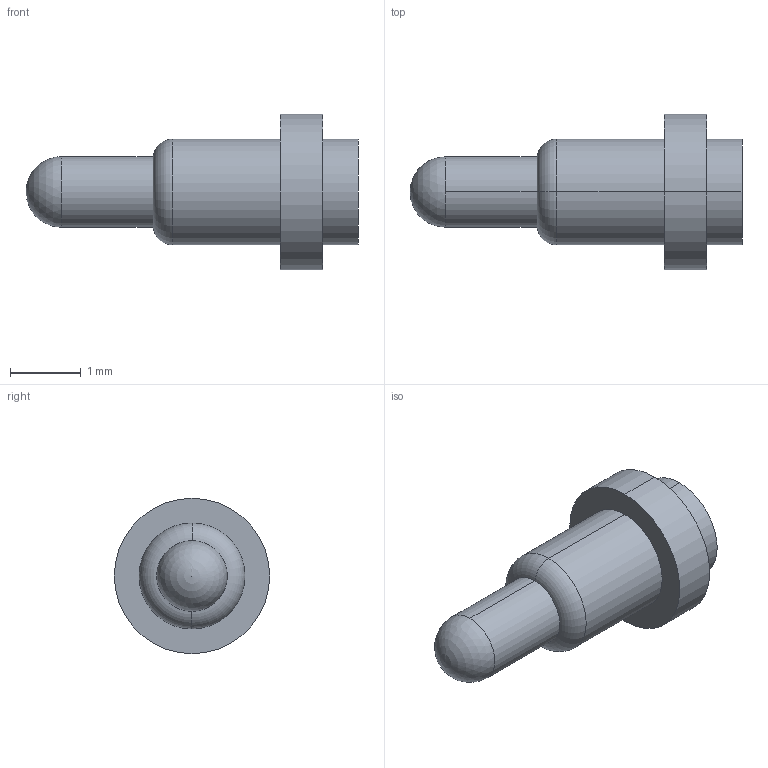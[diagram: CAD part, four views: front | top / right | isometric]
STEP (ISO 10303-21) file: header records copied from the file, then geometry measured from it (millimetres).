
FILE_DESCRIPTION (( 'STEP AP214' ), '1' );
FILE_NAME ('PD8JST-4.7.STEP', '2023-07-24T09:20:08', ( '' ), ( '' ), 'SwSTEP 2.0', 'SolidWorks 2022', '' );
FILE_SCHEMA (( 'AUTOMOTIVE_DESIGN' ));
Length unit declared in the file: millimetre
Products named in the file (1): PD8JST-4.7
Bounding box: 4.7 x 2.2 x 2.2 mm (x, y, z)
Volume: 7.6 mm3; surface area: 26.9 mm2
Topology: 1 solids, 1 shells, 14 faces, 28 edges, 17 vertices
Faces by surface type: cylinder 8, plane 3, torus 2, sphere 1
Entity records: 390 total; most frequent: DIRECTION 74, CARTESIAN_POINT 57, ORIENTED_EDGE 52, AXIS2_PLACEMENT_3D 33, EDGE_CURVE 26, CIRCLE 18, VERTEX_POINT 16, EDGE_LOOP 16
